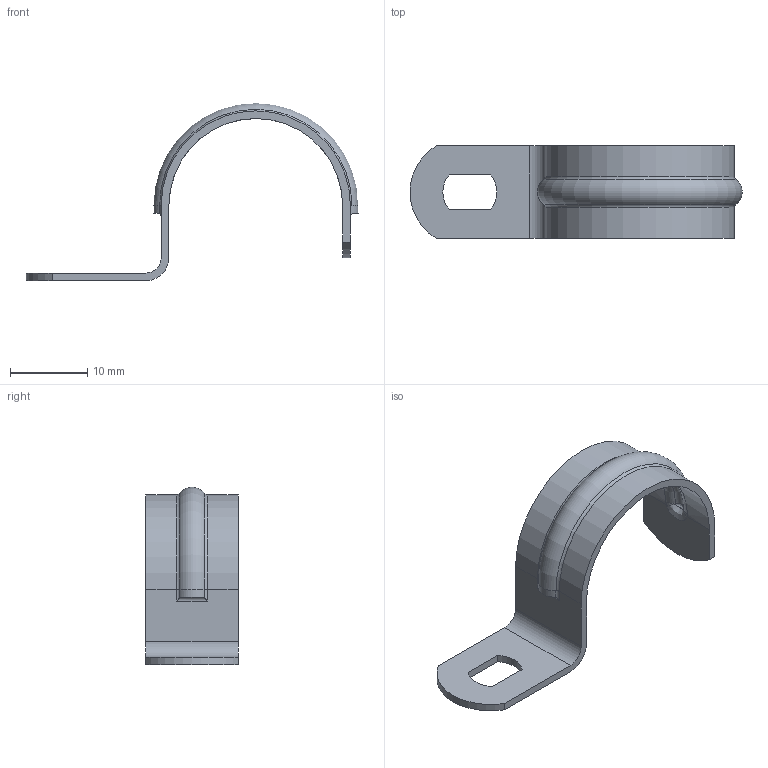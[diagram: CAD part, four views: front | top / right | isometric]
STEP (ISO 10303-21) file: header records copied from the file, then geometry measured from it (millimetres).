
FILE_DESCRIPTION(/* description */ (''),/* implementation_level */ '2;1');
FILE_NAME(/* name */ '4010284.stp',/* time_stamp */ '2019-03-05T02:26:21+01:00',/* author */ (''),/* organization */ (''),/* preprocessor_version */ 'ST-DEVELOPER v16.7',/* originating_system */ 'SIEMENS PLM Software NX 12.0',/* authorisation */ '');
FILE_SCHEMA (('AUTOMOTIVE_DESIGN { 1 0 10303 214 3 1 1 1 }'));
Length unit declared in the file: millimetre
Products named in the file (1): BSOM0DCCF74Fwdpe
Bounding box: 42.98 x 12 x 22.98 mm (x, y, z)
Volume: 825.1 mm3; surface area: 1822.7 mm2
Topology: 1 solids, 1 shells, 44 faces, 110 edges, 68 vertices
Faces by surface type: cylinder 18, plane 12, bspline 8, torus 6
Entity records: 1600 total; most frequent: CARTESIAN_POINT 545, ORIENTED_EDGE 220, DIRECTION 210, EDGE_CURVE 110, AXIS2_PLACEMENT_3D 81, VERTEX_POINT 68, LINE 48, VECTOR 48
